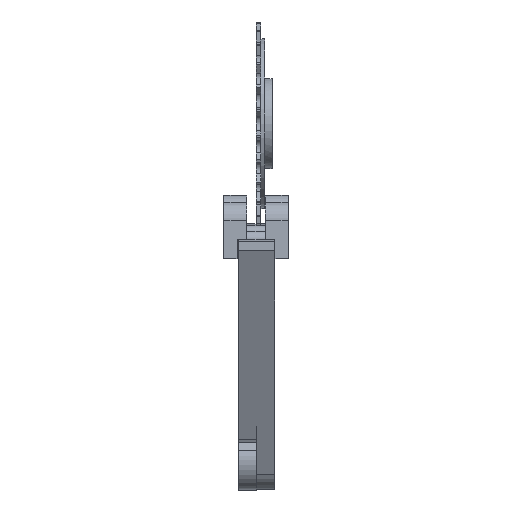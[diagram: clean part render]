
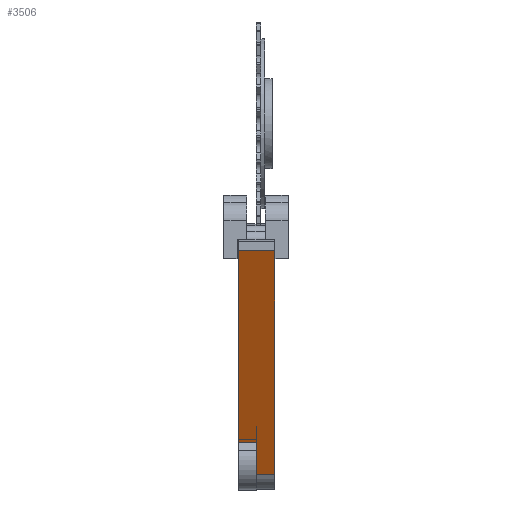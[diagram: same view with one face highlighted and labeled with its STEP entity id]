
A CAD part, top view. The second image highlights one B-rep face of the part: STEP entity #3506.
In plain terms, the highlighted planar face has unit normal (0, -0.447, 0.894) as drawn and (0.447, 0, 0.894) by its records, which use the part's own axes.
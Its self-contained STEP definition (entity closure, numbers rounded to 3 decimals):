
#252=LINE('',#5937,#546);
#258=LINE('',#5948,#552);
#262=LINE('',#5957,#556);
#267=LINE('',#5968,#561);
#269=LINE('',#5977,#563);
#270=LINE('',#5978,#564);
#546=VECTOR('',#4875,10.);
#552=VECTOR('',#4883,10.);
#556=VECTOR('',#4891,10.);
#561=VECTOR('',#4902,10.);
#563=VECTOR('',#4912,10.);
#564=VECTOR('',#4913,10.);
#924=FACE_OUTER_BOUND('',#1125,.T.);
#1125=EDGE_LOOP('',(#3044,#3045,#3046,#3047,#3048,#3049));
#1658=VERTEX_POINT('',#5934);
#1659=VERTEX_POINT('',#5936);
#1663=VERTEX_POINT('',#5946);
#1666=VERTEX_POINT('',#5956);
#1669=VERTEX_POINT('',#5966);
#1672=VERTEX_POINT('',#5976);
#2124=EDGE_CURVE('',#1658,#1659,#252,.T.);
#2130=EDGE_CURVE('',#1663,#1658,#258,.T.);
#2134=EDGE_CURVE('',#1659,#1666,#262,.T.);
#2140=EDGE_CURVE('',#1669,#1663,#267,.T.);
#2144=EDGE_CURVE('',#1669,#1672,#269,.T.);
#2145=EDGE_CURVE('',#1666,#1672,#270,.T.);
#3044=ORIENTED_EDGE('',*,*,#2140,.F.);
#3045=ORIENTED_EDGE('',*,*,#2144,.T.);
#3046=ORIENTED_EDGE('',*,*,#2145,.F.);
#3047=ORIENTED_EDGE('',*,*,#2134,.F.);
#3048=ORIENTED_EDGE('',*,*,#2124,.F.);
#3049=ORIENTED_EDGE('',*,*,#2130,.F.);
#3338=PLANE('',#3947);
#3506=ADVANCED_FACE('',(#924),#3338,.T.);
#3947=AXIS2_PLACEMENT_3D('',#5975,#4910,#4911);
#4875=DIRECTION('',(-0.894,0.,0.447));
#4883=DIRECTION('',(0.,-1.,0.));
#4891=DIRECTION('',(0.,1.,0.));
#4902=DIRECTION('',(-0.894,0.,0.447));
#4910=DIRECTION('center_axis',(0.447,0.,0.894));
#4911=DIRECTION('ref_axis',(0.894,0.,-0.447));
#4912=DIRECTION('',(0.,1.,0.));
#4913=DIRECTION('',(0.894,0.,-0.447));
#5934=CARTESIAN_POINT('',(116.764,-9.55,21.888));
#5936=CARTESIAN_POINT('',(15.572,-9.55,72.484));
#5937=CARTESIAN_POINT('',(133.708,-9.55,13.416));
#5946=CARTESIAN_POINT('',(116.764,0.,21.888));
#5948=CARTESIAN_POINT('',(116.764,0.,21.888));
#5956=CARTESIAN_POINT('',(15.572,9.55,72.484));
#5957=CARTESIAN_POINT('',(15.572,0.,72.484));
#5966=CARTESIAN_POINT('',(133.708,0.,13.416));
#5968=CARTESIAN_POINT('',(133.708,0.,13.416));
#5975=CARTESIAN_POINT('Origin',(15.572,0.,72.484));
#5976=CARTESIAN_POINT('',(133.708,9.55,13.416));
#5977=CARTESIAN_POINT('',(133.708,0.,13.416));
#5978=CARTESIAN_POINT('',(133.708,9.55,13.416));
